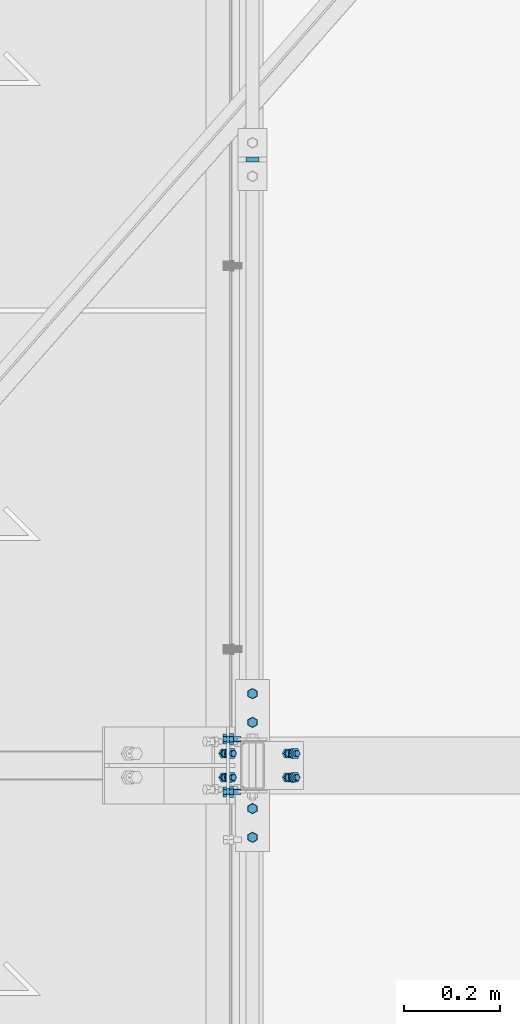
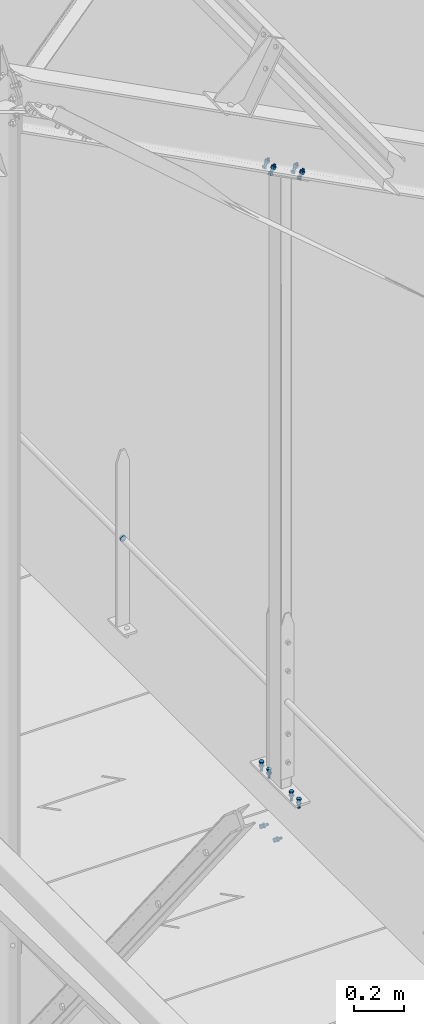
# One storey, part 246 of 362: 7 mechanical fasteners.
"""IFC2X3 building model written with IfcOpenShell, lengths in millimetres."""

from ifc_helpers import new_model, si_unit, frame, origin_with_axes, origin_2d_with_axis, place, context, subcontext, project, spatial, polyline, circle, outline, extrude, source, transform, mapped, material, type_object, element, save


model = new_model("IFC2X3")

# Units and contexts
model_context = context("Model", 3, precision=1e-05, world=origin_with_axes())
body_context = subcontext(model_context, "Body", "Model", "MODEL_VIEW")
ifc_project = project(units=[si_unit("LENGTHUNIT", "METRE", prefix="MILLI"), si_unit("AREAUNIT", "SQUARE_METRE"), si_unit("VOLUMEUNIT", "CUBIC_METRE"), si_unit("MASSUNIT", "GRAM", prefix="KILO"), si_unit("TIMEUNIT", "SECOND"), si_unit("PLANEANGLEUNIT", "RADIAN"), si_unit("SOLIDANGLEUNIT", "STERADIAN"), si_unit("THERMODYNAMICTEMPERATUREUNIT", "DEGREE_CELSIUS"), si_unit("LUMINOUSINTENSITYUNIT", "LUMEN")], contexts=[model_context])

# Site, building, storey
site_placement = place(None, origin_with_axes())
site = spatial("IfcSite", under=ifc_project, at=site_placement, Name="Undefined", CompositionType="ELEMENT")
building_placement = place(site_placement, origin_with_axes())
building = spatial("IfcBuilding", under=site, at=building_placement, Name="Undefined", CompositionType="ELEMENT")
storey_placement = place(building_placement, origin_with_axes())
storey = spatial("IfcBuildingStorey", under=building, at=storey_placement, Name="Undefined", CompositionType="ELEMENT", Elevation=0.0)

# Mechanical fasteners
ifc_material_1 = material(Name="8.8-SB-ZINGUE")
mechanical_fastener_type = type_object("IfcMechanicalFastenerType", Name="Bolt assembly")
shared_shape_1 = source(origin_with_axes(), body_context, "Body", "SweptSolid", [
    extrude(circle(Radius=7.0, at=origin_2d_with_axis()), frame((0.0, -10.0000010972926, 0.0), z_axis=(0.0, 1.0, 0.0), x_axis=(1.0, 0.0, 0.0)), (0.0, 0.0, 1.0), 10.1),
    extrude(outline(polyline([(10.39230484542, 0.0), (5.19615242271, 9.00000000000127), (-5.19615242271, 9.00000000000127), (-10.39230484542, 0.0), (-5.19615242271, -9.00000000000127), (5.19615242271, -9.00000000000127), (10.39230484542, 0.0)])), frame((0.0, -17.92, 0.0), z_axis=(0.0, 1.0, 0.0), x_axis=(1.0, 0.0, 0.0)), (0.0, 0.0, 1.0), 7.92),
    extrude(circle(Radius=6.0, at=origin_2d_with_axis()), frame((0.0, -10.0000010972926, 0.0), z_axis=(0.0, 1.0, 0.0), x_axis=(1.0, 0.0, 0.0)), (0.0, 0.0, 1.0), 40.0),
    extrude(outline(polyline([(11.5008173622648, 0.0), (5.7504086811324, 9.96000000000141), (-5.7504086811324, 9.96000000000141), (-11.5008173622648, 0.0), (-5.7504086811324, -9.96000000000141), (5.7504086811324, -9.96000000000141), (11.5008173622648, 0.0)])), frame((0.0, 0.0, 0.0), z_axis=(0.0, 1.0, 0.0), x_axis=(1.0, 0.0, 0.0)), (0.0, 0.0, 1.0), 7.92),
])
for number, where, z_axis, x_axis, name in (
    (1, (13993.9998855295, 7750.00010620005, 8239.99999240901), (1.0, 0.0, 0.0), (0.0, -1.0, 0.0), "Bolt assembly"),
    (2, (13993.9998855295, 7450.00010619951, 8240.00002612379), (-1.0, 0.0, 0.0), (0.0, 1.0, 0.0), "Bolt assembly"),
):
    element("IfcMechanicalFastener", number, at=place(storey_placement, frame(where, z_axis=z_axis, x_axis=x_axis)), inside=storey, type_object=mechanical_fastener_type, material=ifc_material_1, Name=name, NominalDiameter=12.0, NominalLength=40.0, context=body_context, shape_type="MappedRepresentation", body=[
        mapped(shared_shape_1, transform((0.0, 0.0, 0.0))),
        mapped(shared_shape_1, transform((60.0, 0.0, 0.0))),
    ])
ifc_material_2 = material(Name="6.8")
shared_shape_2 = source(origin_with_axes(), body_context, "Body", "SweptSolid", [
    extrude(circle(Radius=14.0, at=origin_2d_with_axis()), frame((0.0, -5.00000000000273, 0.0), z_axis=(0.0, 1.0, 0.0), x_axis=(1.0, 0.0, 0.0)), (0.0, 0.0, 1.0), 10.1),
])
mechanical_fastener_placement = place(storey_placement, frame((13993.9998891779, 8865.00344774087, 8673.8000011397), z_axis=(0.0, 0.0, 1.0), x_axis=(-1.0, 0.0, 0.0)))
element("IfcMechanicalFastener", 3, at=mechanical_fastener_placement, inside=storey, type_object=mechanical_fastener_type, material=ifc_material_2, Name="Bolt assembly", NominalDiameter=27.0, NominalLength=10.0, context=body_context, shape_type="MappedRepresentation", body=[
    mapped(shared_shape_2, transform((0.0, 0.0, 0.0))),
])
shared_shape_3 = source(origin_with_axes(), body_context, "Body", "SweptSolid", [
    extrude(circle(Radius=7.0, at=origin_2d_with_axis()), frame((0.0, -0.100011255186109, 0.0), z_axis=(0.0, 1.0, 0.0), x_axis=(1.0, 0.0, 0.0)), (0.0, 0.0, 1.0), 9.9),
    extrude(circle(Radius=7.0, at=origin_2d_with_axis()), frame((0.0, -9.9, 0.0), z_axis=(0.0, 1.0, 0.0), x_axis=(1.0, 0.0, 0.0)), (0.0, 0.0, 1.0), 10.0),
    extrude(outline(polyline([(10.39230484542, 0.0), (5.19615242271, 9.00000000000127), (-5.19615242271, 9.00000000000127), (-10.39230484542, 0.0), (-5.19615242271, -9.00000000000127), (5.19615242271, -9.00000000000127), (10.39230484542, 0.0)])), frame((0.0, -17.92, 0.0), z_axis=(0.0, 1.0, 0.0), x_axis=(1.0, 0.0, 0.0)), (0.0, 0.0, 1.0), 7.92),
    extrude(circle(Radius=6.0, at=origin_2d_with_axis()), frame((0.0, -10.0000010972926, 0.0), z_axis=(0.0, 1.0, 0.0), x_axis=(1.0, 0.0, 0.0)), (0.0, 0.0, 1.0), 40.0),
    extrude(circle(Radius=10.8, at=origin_2d_with_axis()), frame((0.0, 9.80000019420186, 0.0), z_axis=(0.0, 1.0, 0.0), x_axis=(1.0, 0.0, 0.0)), (0.0, 0.0, 1.0), 3.96),
    extrude(outline(polyline([(11.5008173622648, 0.0), (5.7504086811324, 9.96000000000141), (-5.7504086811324, 9.96000000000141), (-11.5008173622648, 0.0), (-5.7504086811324, -9.96000000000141), (5.7504086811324, -9.96000000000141), (11.5008173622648, 0.0)])), frame((0.0, 13.7600001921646, 0.0), z_axis=(0.0, 1.0, 0.0), x_axis=(1.0, 0.0, 0.0)), (0.0, 0.0, 1.0), 7.92),
])
for number, where, z_axis, x_axis, name in (
    (4, (14073.7472683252, 7600.00000000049, 11206.6642092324), (0.0, 1.0, 0.0), (-0.886082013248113, 9.38091927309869e-07, 0.463528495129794), "Bolt assembly"),
    (5, (13940.8349636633, 7600.00000000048, 11276.1934783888), (0.0, -1.0, 0.0), (0.886081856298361, 3.500000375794e-08, -0.463528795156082), "Bolt assembly"),
):
    element("IfcMechanicalFastener", number, at=place(storey_placement, frame(where, z_axis=z_axis, x_axis=x_axis)), inside=storey, type_object=mechanical_fastener_type, material=ifc_material_1, Name=name, NominalDiameter=12.0, NominalLength=40.0, context=body_context, shape_type="MappedRepresentation", body=[
        mapped(shared_shape_3, transform((0.0, 0.0, -25.0))),
        mapped(shared_shape_3, transform((0.0, 0.0, 25.0))),
    ])
shared_shape_4 = source(origin_with_axes(), body_context, "Body", "SweptSolid", [
    extrude(circle(Radius=7.0, at=origin_2d_with_axis()), frame((0.0, -6.5, 0.0), z_axis=(0.0, 1.0, 0.0), x_axis=(1.0, 0.0, 0.0)), (0.0, 0.0, 1.0), 6.1),
    extrude(outline(polyline([(10.39230484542, 0.0), (5.19615242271, 9.00000000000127), (-5.19615242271, 9.00000000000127), (-10.39230484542, 0.0), (-5.19615242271, -9.00000000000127), (5.19615242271, -9.00000000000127), (10.39230484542, 0.0)])), frame((0.0, -14.42, 0.0), z_axis=(0.0, 1.0, 0.0), x_axis=(1.0, 0.0, 0.0)), (0.0, 0.0, 1.0), 7.92),
    extrude(circle(Radius=6.0, at=origin_2d_with_axis()), frame((0.0, -6.5, 0.0), z_axis=(0.0, 1.0, 0.0), x_axis=(1.0, 0.0, 0.0)), (0.0, 0.0, 1.0), 30.0),
    extrude(outline(polyline([(11.5008173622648, 0.0), (5.7504086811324, 9.96000000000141), (-5.7504086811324, 9.96000000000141), (-11.5008173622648, 0.0), (-5.7504086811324, -9.96000000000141), (5.7504086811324, -9.96000000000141), (11.5008173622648, 0.0)])), frame((0.0, -0.5, 0.0), z_axis=(0.0, 1.0, 0.0), x_axis=(1.0, 0.0, 0.0)), (0.0, 0.0, 1.0), 7.92),
])
for number, where, z_axis, x_axis, name in (
    (6, (13946.4998855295, 7654.99999063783, 8015.00000000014), (0.0, 0.0, 1.0), (0.0, -1.0, 0.0), "Bolt assembly"),
    (7, (13946.4998855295, 7544.99999998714, 8015.00000000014), (0.0, 0.0, -1.0), (0.0, 1.0, 0.0), "Bolt assembly"),
):
    element("IfcMechanicalFastener", number, at=place(storey_placement, frame(where, z_axis=z_axis, x_axis=x_axis)), inside=storey, type_object=mechanical_fastener_type, material=ifc_material_1, Name=name, NominalDiameter=12.0, NominalLength=30.0, context=body_context, shape_type="MappedRepresentation", body=[
        mapped(shared_shape_4, transform((0.0, 0.0, 0.0))),
    ])

save(model, "model.ifc")
